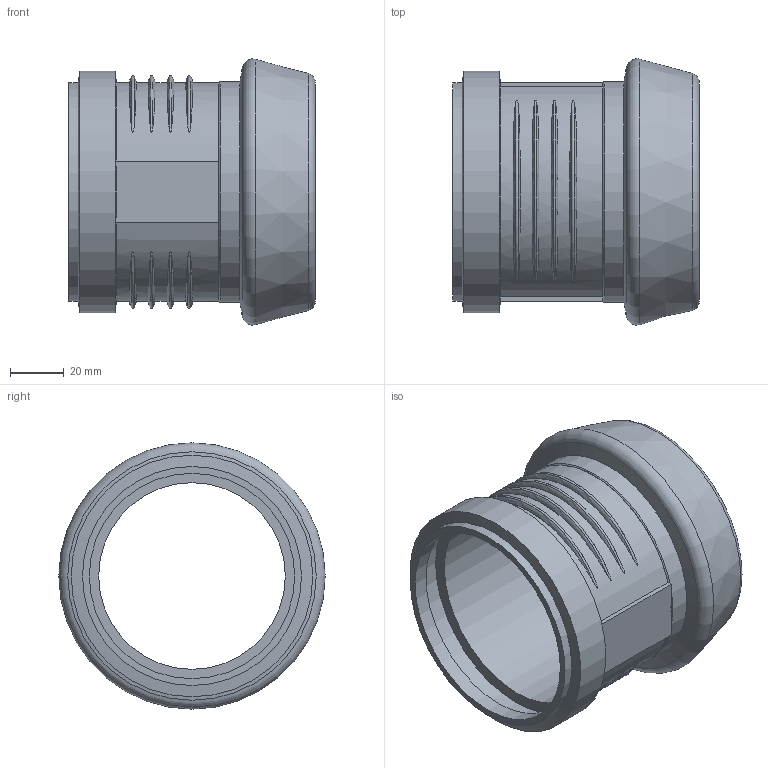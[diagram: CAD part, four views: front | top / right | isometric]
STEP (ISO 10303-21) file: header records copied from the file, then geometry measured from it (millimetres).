
FILE_DESCRIPTION(/* description */ (''),/* implementation_level */ '2;1');
FILE_NAME(/* name */ 'Z:\Geberit\Export\NewStep\390396.stp',/* time_stamp */ '2014-04-02T08:12:07+02:00',/* author */ ('Judith'),/* organization */ (''),/* preprocessor_version */ 'ST-DEVELOPER v15.2',/* originating_system */ 'Autodesk Inventor 2014',/* authorisation */ '');
FILE_SCHEMA (('AUTOMOTIVE_DESIGN { 1 0 10303 214 3 1 1 }'));
Length unit declared in the file: millimetre
Products named in the file (3): 861469; 861402; 390396
Bounding box: 91.4 x 98.8 x 98.8 mm (x, y, z)
Volume: 82737.3 mm3; surface area: 61841.5 mm2
Topology: 2 solids, 2 shells, 61 faces, 142 edges, 95 vertices
Faces by surface type: torus 29, plane 12, cylinder 11, cone 9
Full cylindrical faces by diameter (mm): 69.2 x1, 76.2 x2, 76.45 x2, 81.2 x1, 82 x1, 84.6 x1, 89.6 x1
Entity records: 2405 total; most frequent: CARTESIAN_POINT 1046, DIRECTION 242, ORIENTED_EDGE 236, EDGE_CURVE 118, AXIS2_PLACEMENT_3D 114, EDGE_LOOP 98, VERTEX_POINT 94, STYLED_ITEM 63
